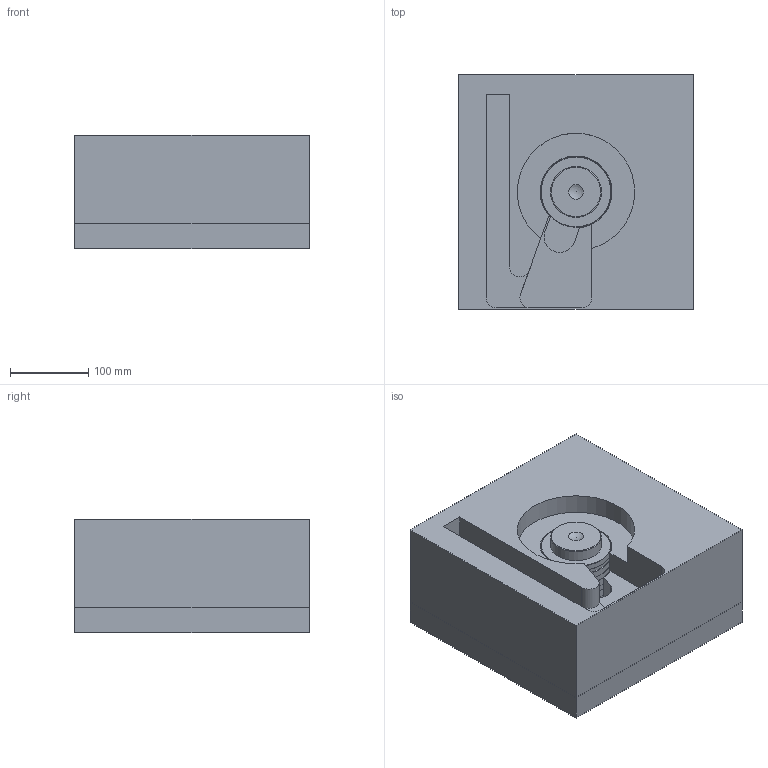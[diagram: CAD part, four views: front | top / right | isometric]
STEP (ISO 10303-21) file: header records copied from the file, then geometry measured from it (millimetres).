
FILE_DESCRIPTION( ( 'STEP AP214' ), '1' );
FILE_NAME( 'S:/PROIECTE_YUDO_2009_dupa_1.07.2009/PROIECTE YUDO 3D 01.07.2009/SAS/YUEU09-SAS22LVF119_1.5/YUEU09-SAS22LVF119.step', '2009-09-03T06:36:07', ( ' ' ), ( ' ' ), 'XStep 1.0', ' ', ' ' );
FILE_SCHEMA( ( 'automotive_design' ) );
Length unit declared in the file: millimetre
Products named in the file (7): 1; 2; 3; 4; 5; 6; 7
Bounding box: 300 x 300 x 145 mm (x, y, z)
Volume: 11881844 mm3; surface area: 658257.1 mm2
Topology: 7 solids, 7 shells, 147 faces, 310 edges, 194 vertices
Faces by surface type: cylinder 58, plane 57, cone 25, torus 6, sphere 1
Full cylindrical faces by diameter (mm): 1.5 x2, 4 x2, 6 x4, 13 x1, 14 x2, 17 x1, 21 x1, 22 x3, 22.1 x1, 30 x2, 34 x1, 37 x2, 48 x2, 54 x2, 65 x1, 89 x4, 90 x5
Entity records: 5222 total; most frequent: CARTESIAN_POINT 1032, DIRECTION 626, ORIENTED_EDGE 474, AXIS2_PLACEMENT_3D 264, EDGE_LOOP 243, EDGE_CURVE 237, FACE_OUTER_BOUND 189, VERTEX_POINT 188
